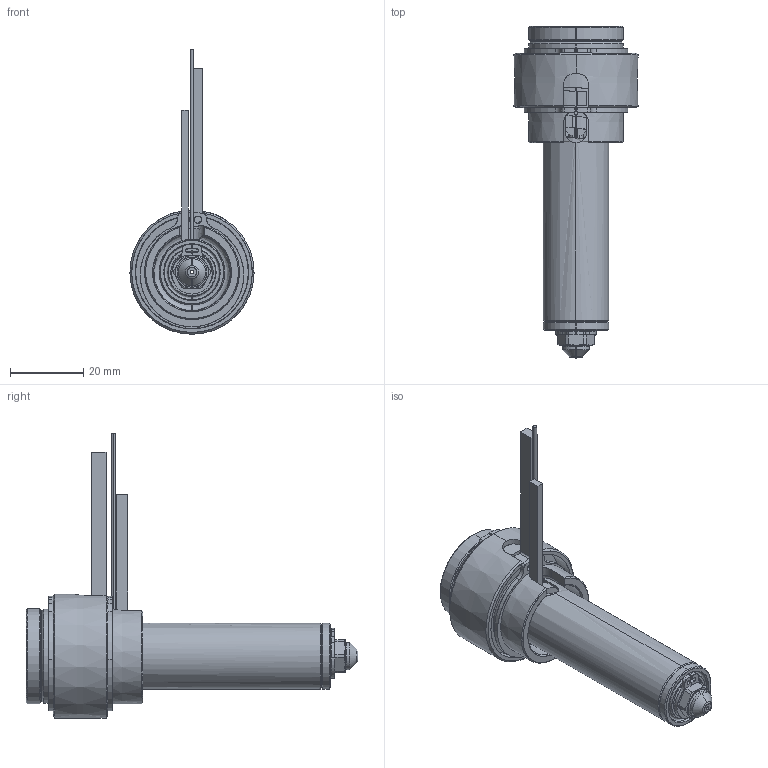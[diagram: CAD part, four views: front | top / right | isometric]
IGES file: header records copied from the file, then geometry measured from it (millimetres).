
Start section: SolidWorks IGES file using analytic representation for surfaces
Global section: file name: C:\Documents and Settings\ws-20\Desktop\TEM\UGER2502-S-A-1 [Øb-0.90 ØC-4.0].IGS; native system: SolidWorks 2012; preprocessor: SolidWorks 2012; author: ws-20; date: 120405.101823; units: millimetre
Bounding box: 34 x 90.9 x 77.9 mm (x, y, z)
Surface area: 22043.7 mm2 (no closed solid volume)
Topology: 0 solids, 0 shells, 202 faces, 2647 edges, 2647 vertices
Faces by surface type: revolution 129, bspline 73
